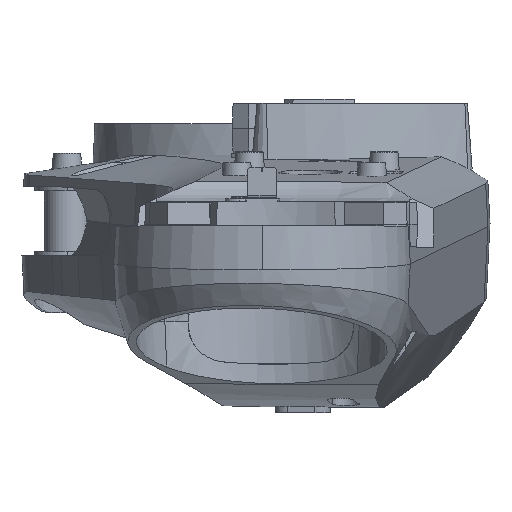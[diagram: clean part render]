
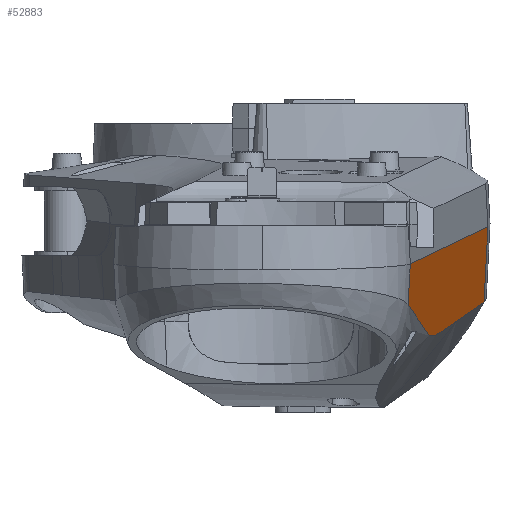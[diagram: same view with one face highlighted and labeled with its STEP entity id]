
A CAD part, top view. The second image highlights one B-rep face of the part: STEP entity #52883.
In plain terms, the highlighted planar face has unit normal (0.994, -0.057, 0.093).
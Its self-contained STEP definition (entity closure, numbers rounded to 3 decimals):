
#36 = CARTESIAN_POINT ( 'NONE',  ( 870.173, -350.774, 1539.722 ) ) ;
#3657 = CARTESIAN_POINT ( 'NONE',  ( 852.379, -321.75, 1747.616 ) ) ;
#4013 = CARTESIAN_POINT ( 'NONE',  ( 881.755, -354.724, 1413.53 ) ) ;
#4368 = CARTESIAN_POINT ( 'NONE',  ( 882.882, -354.144, 1401.842 ) ) ;
#5071 = CARTESIAN_POINT ( 'NONE',  ( 934.088, -318.281, 876.514 ) ) ;
#5098 = VERTEX_POINT ( 'NONE', #52833 ) ;
#5432 = CARTESIAN_POINT ( 'NONE',  ( 859.818, -334.157, 1660.53 ) ) ;
#5909 = FACE_OUTER_BOUND ( 'NONE', #54833, .T. ) ;
#8693 = CARTESIAN_POINT ( 'NONE',  ( 853.273, -323.212, 1737.161 ) ) ;
#9398 = CARTESIAN_POINT ( 'NONE',  ( 854.458, -325.272, 1723.239 ) ) ;
#9750 = CARTESIAN_POINT ( 'NONE',  ( 865.377, -343.366, 1595.497 ) ) ;
#9937 = CARTESIAN_POINT ( 'NONE',  ( 854.24, -275.752, 1755.815 ) ) ;
#10095 = CARTESIAN_POINT ( 'NONE',  ( 867.561, -346.991, 1569.949 ) ) ;
#10783 = CARTESIAN_POINT ( 'NONE',  ( 917.701, -329.784, 1044.617 ) ) ;
#11954 = AXIS2_PLACEMENT_3D ( 'NONE', #33281, #27249, #26566 ) ;
#14752 = CARTESIAN_POINT ( 'NONE',  ( 877.767, -355.496, 1455.684 ) ) ;
#15099 = CARTESIAN_POINT ( 'NONE',  ( 886.293, -351.811, 1366.816 ) ) ;
#15438 = CARTESIAN_POINT ( 'NONE',  ( 862.201, -338.105, 1632.659 ) ) ;
#15656 = DIRECTION ( 'NONE',  ( -0.096, -0.047, 0.994 ) ) ;
#15727 = EDGE_CURVE ( 'NONE', #5098, #55879, #30934, .T. ) ;
#16139 = CARTESIAN_POINT ( 'NONE',  ( 883.789, -353.57, 1392.498 ) ) ;
#17160 = CARTESIAN_POINT ( 'NONE',  ( 940.282, -233.288, 862.235 ) ) ;
#18970 = ORIENTED_EDGE ( 'NONE', *, *, #40670, .T. ) ;
#19029 = CARTESIAN_POINT ( 'NONE',  ( 852.076, -321.322, 1751.11 ) ) ;
#20431 = CARTESIAN_POINT ( 'NONE',  ( 931.357, -320.205, 904.531 ) ) ;
#20517 = LINE ( 'NONE', #20868, #69373 ) ;
#20780 = CARTESIAN_POINT ( 'NONE',  ( 866.568, -345.34, 1581.561 ) ) ;
#20868 = CARTESIAN_POINT ( 'NONE',  ( 940.282, -233.288, 862.235 ) ) ;
#21332 = LINE ( 'NONE', #63347, #48251 ) ;
#21477 = CARTESIAN_POINT ( 'NONE',  ( 855.848, -327.576, 1706.981 ) ) ;
#21599 = PLANE ( 'NONE',  #11954 ) ;
#21834 = CARTESIAN_POINT ( 'NONE',  ( 882.205, -354.514, 1408.853 ) ) ;
#23364 = VERTEX_POINT ( 'NONE', #53368 ) ;
#24309 = B_SPLINE_CURVE_WITH_KNOTS ( 'NONE', 3,
 ( #52490, #40711, #19029, #41058, #3657, #62792, #57479, #8693, #30392, #52136, #25406, #9398, #47867, #70177, #52854, #21477, #58189, #27130, #5432, #15438, #59235, #42126, #9750, #20780, #37458, #10095, #54249, #47524, #69504, #48895, #36, #26118, #43181, #42474, #14752, #63491, #26456, #31801, #36434, #4013, #21834, #4368, #59585, #31090, #16139, #37799, #64181, #48207, #15099, #63829, #25768, #69159, #10783, #36774, #32475, #20431, #58535, #31454, #5071, #53214, #37108, #58890, #53560, #48548, #26783 ),
 .UNSPECIFIED., .F., .F.,
 ( 4, 2, 2, 2, 2, 2, 2, 2, 2, 2, 2, 2, 2, 2, 2, 2, 2, 2, 2, 2, 2, 2, 2, 2, 2, 1, 2, 1, 2, 2, 2, 1, 2, 4 ),
 ( 0.008, 0.011, 0.015, 0.022, 0.029, 0.036, 0.043, 0.05, 0.064, 0.121, 0.149, 0.177, 0.191, 0.199, 0.206, 0.234, 0.29, 0.319, 0.333, 0.347, 0.361, 0.368, 0.375, 0.389, 0.403, 0.46, 0.686, 0.799, 0.855, 0.883, 0.898, 0.905, 0.908, 0.912 ),
 .UNSPECIFIED. ) ;
#24547 = DIRECTION ( 'NONE',  ( 0.052, 0.997, 0.052 ) ) ;
#24609 = EDGE_CURVE ( 'NONE', #5098, #23364, #24309, .T. ) ;
#25406 = CARTESIAN_POINT ( 'NONE',  ( 854.062, -324.597, 1727.882 ) ) ;
#25466 = VECTOR ( 'NONE', #24547, 1000. ) ;
#25768 = CARTESIAN_POINT ( 'NONE',  ( 897.672, -343.833, 1250.077 ) ) ;
#26118 = CARTESIAN_POINT ( 'NONE',  ( 872.637, -353.415, 1511.77 ) ) ;
#26456 = CARTESIAN_POINT ( 'NONE',  ( 879.527, -355.387, 1436.942 ) ) ;
#26566 = DIRECTION ( 'NONE',  ( -0.093, 0., 0.996 ) ) ;
#26783 = CARTESIAN_POINT ( 'NONE',  ( 935.909, -317.011, 857.835 ) ) ;
#27130 = CARTESIAN_POINT ( 'NONE',  ( 858.23, -331.524, 1679.11 ) ) ;
#27249 = DIRECTION ( 'NONE',  ( 0.994, -0.057, 0.093 ) ) ;
#30392 = CARTESIAN_POINT ( 'NONE',  ( 853.47, -323.56, 1734.841 ) ) ;
#30934 = LINE ( 'NONE', #51619, #25466 ) ;
#31090 = CARTESIAN_POINT ( 'NONE',  ( 883.562, -353.724, 1394.833 ) ) ;
#31454 = CARTESIAN_POINT ( 'NONE',  ( 933.633, -318.602, 881.183 ) ) ;
#31801 = CARTESIAN_POINT ( 'NONE',  ( 880.414, -355.198, 1427.572 ) ) ;
#32475 = CARTESIAN_POINT ( 'NONE',  ( 928.626, -322.121, 932.548 ) ) ;
#33281 = CARTESIAN_POINT ( 'NONE',  ( 897.261, -254.52, 1309.025 ) ) ;
#36434 = CARTESIAN_POINT ( 'NONE',  ( 880.86, -355.065, 1422.89 ) ) ;
#36774 = CARTESIAN_POINT ( 'NONE',  ( 923.163, -325.952, 988.582 ) ) ;
#37108 = CARTESIAN_POINT ( 'NONE',  ( 935.112, -317.563, 866.007 ) ) ;
#37458 = CARTESIAN_POINT ( 'NONE',  ( 866.965, -346., 1576.916 ) ) ;
#37799 = CARTESIAN_POINT ( 'NONE',  ( 884.472, -353.092, 1385.494 ) ) ;
#40670 = EDGE_CURVE ( 'NONE', #23364, #67037, #20517, .T. ) ;
#40711 = CARTESIAN_POINT ( 'NONE',  ( 851.974, -321.198, 1752.277 ) ) ;
#41058 = CARTESIAN_POINT ( 'NONE',  ( 852.278, -321.603, 1748.78 ) ) ;
#41857 = DIRECTION ( 'NONE',  ( 0.052, 0.997, 0.052 ) ) ;
#42126 = CARTESIAN_POINT ( 'NONE',  ( 864.583, -342.054, 1604.788 ) ) ;
#42474 = CARTESIAN_POINT ( 'NONE',  ( 876.897, -355.378, 1465.045 ) ) ;
#43181 = CARTESIAN_POINT ( 'NONE',  ( 874.319, -354.565, 1493.101 ) ) ;
#44549 = ORIENTED_EDGE ( 'NONE', *, *, #24609, .T. ) ;
#47524 = CARTESIAN_POINT ( 'NONE',  ( 868.158, -347.949, 1562.978 ) ) ;
#47867 = CARTESIAN_POINT ( 'NONE',  ( 854.657, -325.601, 1720.917 ) ) ;
#48207 = CARTESIAN_POINT ( 'NONE',  ( 885.838, -352.13, 1371.485 ) ) ;
#48251 = VECTOR ( 'NONE', #15656, 1000. ) ;
#48548 = CARTESIAN_POINT ( 'NONE',  ( 935.795, -317.092, 859.003 ) ) ;
#48895 = CARTESIAN_POINT ( 'NONE',  ( 869.361, -349.74, 1549.03 ) ) ;
#51619 = CARTESIAN_POINT ( 'NONE',  ( 854.24, -275.752, 1755.815 ) ) ;
#52136 = CARTESIAN_POINT ( 'NONE',  ( 853.865, -324.252, 1730.202 ) ) ;
#52490 = CARTESIAN_POINT ( 'NONE',  ( 851.876, -321.015, 1753.436 ) ) ;
#52833 = CARTESIAN_POINT ( 'NONE',  ( 851.876, -321.015, 1753.436 ) ) ;
#52854 = CARTESIAN_POINT ( 'NONE',  ( 855.252, -326.588, 1713.949 ) ) ;
#52883 = ADVANCED_FACE ( 'NONE', ( #5909 ), #21599, .T. ) ;
#53214 = CARTESIAN_POINT ( 'NONE',  ( 934.771, -317.802, 869.51 ) ) ;
#53368 = CARTESIAN_POINT ( 'NONE',  ( 935.909, -317.011, 857.835 ) ) ;
#53560 = CARTESIAN_POINT ( 'NONE',  ( 935.681, -317.17, 860.17 ) ) ;
#54249 = CARTESIAN_POINT ( 'NONE',  ( 867.759, -347.317, 1567.626 ) ) ;
#54833 = EDGE_LOOP ( 'NONE', ( #58773, #44549, #18970, #64602 ) ) ;
#55879 = VERTEX_POINT ( 'NONE', #9937 ) ;
#57479 = CARTESIAN_POINT ( 'NONE',  ( 852.877, -322.536, 1741.804 ) ) ;
#58189 = CARTESIAN_POINT ( 'NONE',  ( 856.245, -328.234, 1702.336 ) ) ;
#58535 = CARTESIAN_POINT ( 'NONE',  ( 932.267, -319.567, 895.192 ) ) ;
#58773 = ORIENTED_EDGE ( 'NONE', *, *, #15727, .F. ) ;
#58890 = CARTESIAN_POINT ( 'NONE',  ( 935.454, -317.327, 862.505 ) ) ;
#59235 = CARTESIAN_POINT ( 'NONE',  ( 862.995, -339.421, 1623.368 ) ) ;
#59585 = CARTESIAN_POINT ( 'NONE',  ( 883.108, -354.01, 1399.505 ) ) ;
#62792 = CARTESIAN_POINT ( 'NONE',  ( 852.679, -322.208, 1744.126 ) ) ;
#63347 = CARTESIAN_POINT ( 'NONE',  ( 938.381, -234.226, 881.976 ) ) ;
#63491 = CARTESIAN_POINT ( 'NONE',  ( 879.085, -355.443, 1441.63 ) ) ;
#63829 = CARTESIAN_POINT ( 'NONE',  ( 888.569, -350.216, 1343.468 ) ) ;
#64181 = CARTESIAN_POINT ( 'NONE',  ( 884.927, -352.769, 1380.824 ) ) ;
#64602 = ORIENTED_EDGE ( 'NONE', *, *, #65439, .T. ) ;
#65439 = EDGE_CURVE ( 'NONE', #67037, #55879, #21332, .T. ) ;
#67037 = VERTEX_POINT ( 'NONE', #17160 ) ;
#69159 = CARTESIAN_POINT ( 'NONE',  ( 906.776, -337.448, 1156.686 ) ) ;
#69373 = VECTOR ( 'NONE', #41857, 1000. ) ;
#69504 = CARTESIAN_POINT ( 'NONE',  ( 868.358, -348.255, 1560.654 ) ) ;
#70177 = CARTESIAN_POINT ( 'NONE',  ( 855.054, -326.259, 1716.271 ) ) ;
